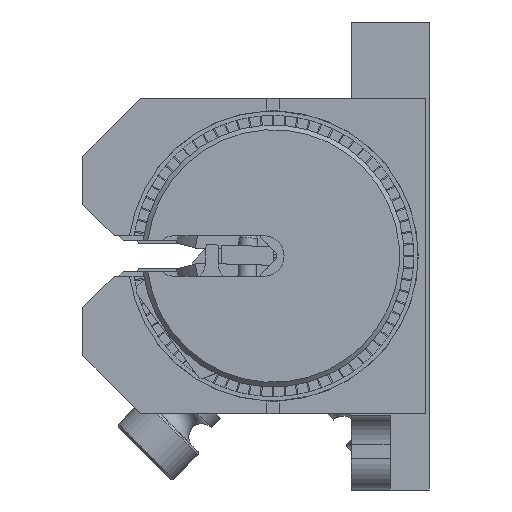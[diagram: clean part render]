
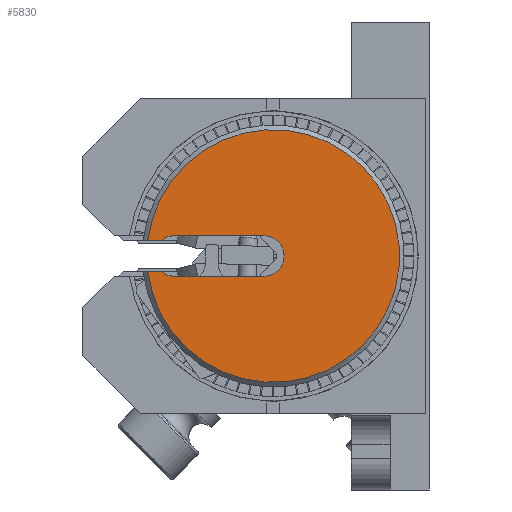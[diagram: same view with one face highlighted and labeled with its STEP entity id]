
A CAD part, left-side view. The second image highlights one B-rep face of the part: STEP entity #5830.
In plain terms, the highlighted planar face has unit normal (-1, 0, 0).
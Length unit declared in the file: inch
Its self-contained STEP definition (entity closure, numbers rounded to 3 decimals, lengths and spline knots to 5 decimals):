
#3103=EDGE_CURVE('FRM2-2-Y[2]',#9726,#9727,#9728,.T.);
#5612=EDGE_CURVE('FRM2-2-Y[2]',#13507,#13508,#13509,.T.);
#5830=ADVANCED_FACE('FRM2-2-Y[2]',(#13812),#13813,.T.);
#7576=EDGE_CURVE('FRM2-2-Y[2]',#14426,#15673,#15982,.T.);
#7805=EDGE_CURVE('FRM2-2-Y[2]',#10603,#13507,#16249,.T.);
#7957=EDGE_CURVE('FRM2-2-Y[2]',#9727,#14426,#16426,.T.);
#8140=EDGE_CURVE('FRM2-2-Y[2]',#16643,#9726,#16644,.T.);
#8327=EDGE_CURVE('FRM2-2-Y[2]',#15673,#10603,#16861,.T.);
#8607=EDGE_CURVE('FRM2-2-Y[2]',#13508,#16643,#17190,.T.);
#9726=VERTEX_POINT('',#18622);
#9727=VERTEX_POINT('',#18623);
#9728=CIRCLE('',#18624,0.405);
#10603=VERTEX_POINT('',#19954);
#13507=VERTEX_POINT('',#26127);
#13508=VERTEX_POINT('',#26128);
#13509=LINE('',#26129,#26130);
#13812=FACE_OUTER_BOUND('',#26570,.T.);
#13813=PLANE('',#26571);
#14426=VERTEX_POINT('',#27661);
#15673=VERTEX_POINT('',#30142);
#15982=CIRCLE('',#30739,0.065);
#16249=CIRCLE('',#31181,0.065);
#16426=LINE('',#31593,#31594);
#16643=VERTEX_POINT('',#32091);
#16644=LINE('',#32092,#32093);
#16861=LINE('',#32513,#32514);
#17190=CIRCLE('',#33359,0.065);
#18622=CARTESIAN_POINT('',(-4.085,0.4019,0.05));
#18623=CARTESIAN_POINT('',(-4.085,0.4019,-0.05));
#18624=AXIS2_PLACEMENT_3D('',#35136,#35137,#35138);
#19954=CARTESIAN_POINT('',(-4.085,0.03,-0.065));
#26127=CARTESIAN_POINT('',(-4.085,0.03,0.065));
#26128=CARTESIAN_POINT('',(-4.085,0.315,0.065));
#26129=CARTESIAN_POINT('',(-4.085,0.36294,0.065));
#26130=VECTOR('',#39095,39.37008);
#26570=EDGE_LOOP('',(#39428,#39429,#39430,#39431,#39432,#39433,#39434,#39435));
#26571=AXIS2_PLACEMENT_3D('',#39436,#39437,#39438);
#27661=CARTESIAN_POINT('',(-4.085,0.35653,-0.05));
#30142=CARTESIAN_POINT('',(-4.085,0.315,-0.065));
#30739=AXIS2_PLACEMENT_3D('',#42308,#42309,#42310);
#31181=AXIS2_PLACEMENT_3D('',#42637,#42638,#42639);
#31593=CARTESIAN_POINT('',(-4.085,0.53794,-0.05));
#31594=VECTOR('',#42842,39.37008);
#32091=CARTESIAN_POINT('',(-4.085,0.35653,0.05));
#32092=CARTESIAN_POINT('',(-4.085,0.53794,0.05));
#32093=VECTOR('',#43111,39.37008);
#32513=CARTESIAN_POINT('',(-4.085,0.36294,-0.065));
#32514=VECTOR('',#43381,39.37008);
#33359=AXIS2_PLACEMENT_3D('',#43815,#43816,#43817);
#35136=CARTESIAN_POINT('',(-4.085,0.,0.));
#35137=DIRECTION('',(1.0,0.,0.));
#35138=DIRECTION('',(0.,-1.0,0.));
#39095=DIRECTION('',(0.,1.0,0.));
#39428=ORIENTED_EDGE('',*,*,#3103,.F.);
#39429=ORIENTED_EDGE('',*,*,#8140,.F.);
#39430=ORIENTED_EDGE('',*,*,#8607,.F.);
#39431=ORIENTED_EDGE('',*,*,#5612,.F.);
#39432=ORIENTED_EDGE('',*,*,#7805,.F.);
#39433=ORIENTED_EDGE('',*,*,#8327,.F.);
#39434=ORIENTED_EDGE('',*,*,#7576,.F.);
#39435=ORIENTED_EDGE('',*,*,#7957,.F.);
#39436=CARTESIAN_POINT('',(-4.085,0.51088,0.025));
#39437=DIRECTION('',(-1.0,0.0,0.));
#39438=DIRECTION('',(0.0,-1.0,0.0));
#42308=CARTESIAN_POINT('',(-4.085,0.315,0.));
#42309=DIRECTION('',(-1.0,0.,0.));
#42310=DIRECTION('',(0.,0.707,0.707));
#42637=CARTESIAN_POINT('',(-4.085,0.03,0.));
#42638=DIRECTION('',(-1.0,0.0,0.));
#42639=DIRECTION('',(0.,-0.707,0.707));
#42842=DIRECTION('',(0.,-1.0,0.));
#43111=DIRECTION('',(0.,1.0,0.));
#43381=DIRECTION('',(0.,-1.0,0.));
#43815=CARTESIAN_POINT('',(-4.085,0.315,0.));
#43816=DIRECTION('',(-1.0,0.,0.));
#43817=DIRECTION('',(0.,0.707,0.707));
